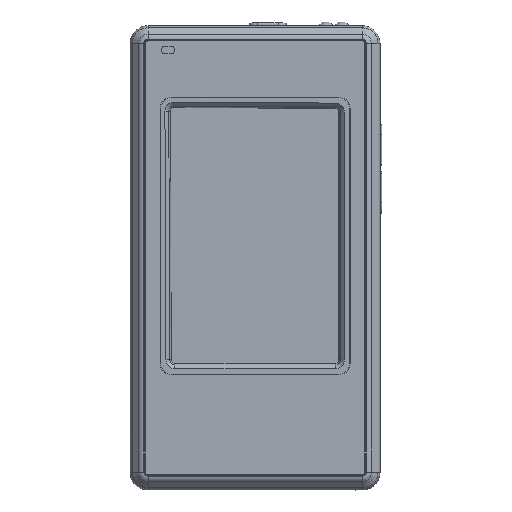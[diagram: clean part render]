
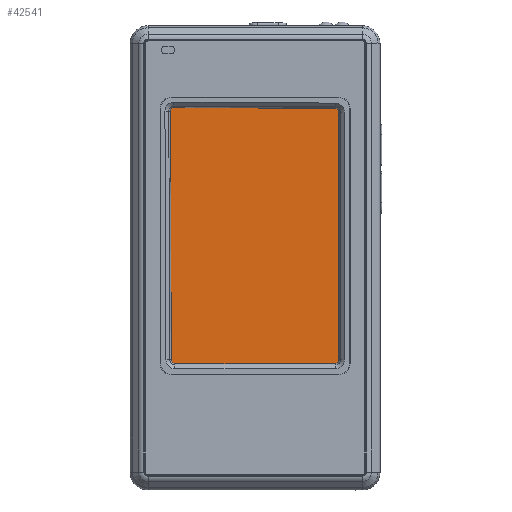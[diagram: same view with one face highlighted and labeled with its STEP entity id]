
A CAD part, top view. The second image highlights one B-rep face of the part: STEP entity #42541.
In plain terms, the highlighted planar face has unit normal (0, 0, 1).
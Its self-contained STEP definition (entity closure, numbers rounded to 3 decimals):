
#37949=PLANE('',#133957);
#42541=ADVANCED_FACE('',(#48324),#37949,.T.);
#48324=FACE_OUTER_BOUND('',#53320,.T.);
#53320=EDGE_LOOP('',(#79468,#79469,#79470,#79471,#79472,#79473,#79474,#79475));
#55597=CIRCLE('',#133953,0.5);
#55598=CIRCLE('',#133954,0.5);
#55599=CIRCLE('',#133955,0.5);
#55600=CIRCLE('',#133956,0.5);
#79468=ORIENTED_EDGE('',*,*,#108706,.F.);
#79469=ORIENTED_EDGE('',*,*,#108707,.F.);
#79470=ORIENTED_EDGE('',*,*,#108708,.F.);
#79471=ORIENTED_EDGE('',*,*,#108709,.F.);
#79472=ORIENTED_EDGE('',*,*,#108710,.F.);
#79473=ORIENTED_EDGE('',*,*,#108711,.F.);
#79474=ORIENTED_EDGE('',*,*,#108712,.F.);
#79475=ORIENTED_EDGE('',*,*,#108713,.F.);
#93588=VERTEX_POINT('',#205013);
#93589=VERTEX_POINT('',#205014);
#93590=VERTEX_POINT('',#205016);
#93591=VERTEX_POINT('',#205018);
#93592=VERTEX_POINT('',#205020);
#93593=VERTEX_POINT('',#205022);
#93594=VERTEX_POINT('',#205024);
#93595=VERTEX_POINT('',#205026);
#108706=EDGE_CURVE('',#93588,#93589,#118044,.T.);
#108707=EDGE_CURVE('',#93590,#93588,#55597,.T.);
#108708=EDGE_CURVE('',#93591,#93590,#118045,.T.);
#108709=EDGE_CURVE('',#93592,#93591,#55598,.T.);
#108710=EDGE_CURVE('',#93593,#93592,#118046,.T.);
#108711=EDGE_CURVE('',#93594,#93593,#55599,.T.);
#108712=EDGE_CURVE('',#93595,#93594,#118047,.T.);
#108713=EDGE_CURVE('',#93589,#93595,#55600,.T.);
#118044=LINE('',#205012,#127059);
#118045=LINE('',#205017,#127060);
#118046=LINE('',#205021,#127061);
#118047=LINE('',#205025,#127062);
#127059=VECTOR('',#153676,1.);
#127060=VECTOR('',#153679,1.);
#127061=VECTOR('',#153682,1.);
#127062=VECTOR('',#153685,1.);
#133953=AXIS2_PLACEMENT_3D('',#205015,#153677,#153678);
#133954=AXIS2_PLACEMENT_3D('',#205019,#153680,#153681);
#133955=AXIS2_PLACEMENT_3D('',#205023,#153683,#153684);
#133956=AXIS2_PLACEMENT_3D('',#205027,#153686,#153687);
#133957=AXIS2_PLACEMENT_3D('',#205028,#153688,#153689);
#153676=DIRECTION('',(0.,1.,0.));
#153677=DIRECTION('',(0.,0.,-1.));
#153678=DIRECTION('',(0.,-1.,0.));
#153679=DIRECTION('',(-1.,0.,0.));
#153680=DIRECTION('',(0.,0.,-1.));
#153681=DIRECTION('',(1.,0.,0.));
#153682=DIRECTION('',(0.,-1.,0.));
#153683=DIRECTION('',(0.,0.,-1.));
#153684=DIRECTION('',(0.,1.,0.));
#153685=DIRECTION('',(1.,0.,0.));
#153686=DIRECTION('',(0.,0.,-1.));
#153687=DIRECTION('',(-1.,0.,0.));
#153688=DIRECTION('',(0.,0.,1.));
#153689=DIRECTION('',(1.,0.,0.));
#205012=CARTESIAN_POINT('',(-30.65,-47.08,0.7));
#205013=CARTESIAN_POINT('',(-30.65,-47.08,0.7));
#205014=CARTESIAN_POINT('',(-30.65,42.39,0.7));
#205015=CARTESIAN_POINT('',(-30.15,-47.08,0.7));
#205016=CARTESIAN_POINT('',(-30.15,-47.58,0.7));
#205017=CARTESIAN_POINT('',(30.15,-47.58,0.7));
#205018=CARTESIAN_POINT('',(30.15,-47.58,0.7));
#205019=CARTESIAN_POINT('',(30.15,-47.08,0.7));
#205020=CARTESIAN_POINT('',(30.65,-47.08,0.7));
#205021=CARTESIAN_POINT('',(30.65,42.39,0.7));
#205022=CARTESIAN_POINT('',(30.65,42.39,0.7));
#205023=CARTESIAN_POINT('',(30.15,42.39,0.7));
#205024=CARTESIAN_POINT('',(30.15,42.89,0.7));
#205025=CARTESIAN_POINT('',(-30.15,42.89,0.7));
#205026=CARTESIAN_POINT('',(-30.15,42.89,0.7));
#205027=CARTESIAN_POINT('',(-30.15,42.39,0.7));
#205028=CARTESIAN_POINT('',(0.,0.,0.7));
